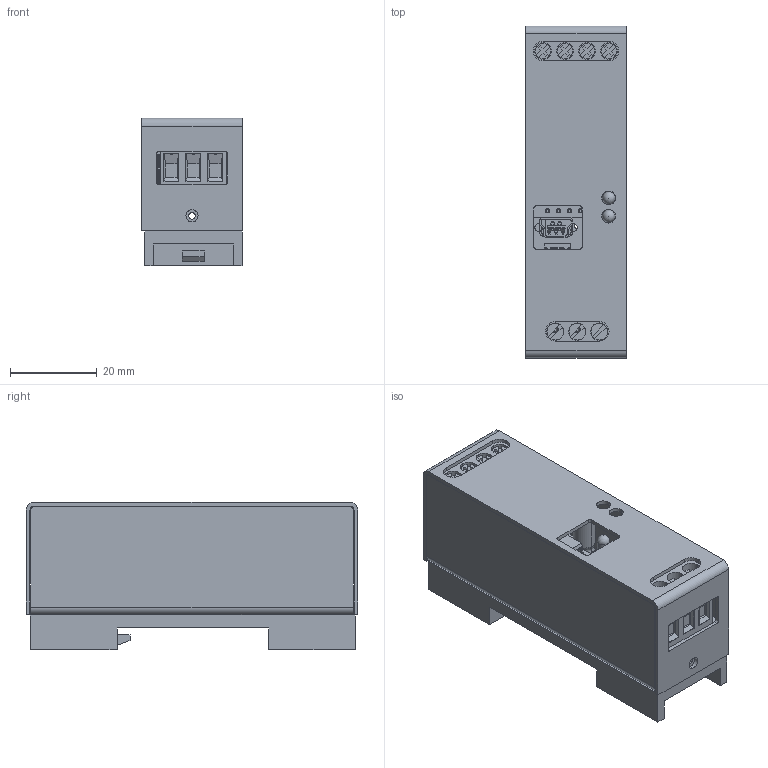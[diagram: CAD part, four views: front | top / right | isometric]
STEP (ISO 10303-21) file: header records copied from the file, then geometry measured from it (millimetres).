
FILE_DESCRIPTION (( 'STEP AP214' ), '1' );
FILE_NAME ('3d_model_tf120.STEP', '2022-11-25T14:15:17', ( '' ), ( '' ), 'SwSTEP 2.0', 'SolidWorks 2015', '' );
FILE_SCHEMA (( 'AUTOMOTIVE_DESIGN' ));
Length unit declared in the file: millimetre
Products named in the file (4): 3d_model_tf120; SUPORTE TRILHO; TF_1XX_REVA; IM001
Assembly tree (3 placements, depth 2):
  3d_model_tf120
    IM001
    TF_1XX_REVA
    SUPORTE TRILHO
Bounding box: 23.1 x 76.6 x 34 mm (x, y, z)
Volume: 13265.1 mm3; surface area: 31411.9 mm2
Topology: 7 solids, 435 shells, 2167 faces, 9189 edges, 7374 vertices
Faces by surface type: plane 1616, cylinder 395, bspline 140, sphere 9, torus 5, cone 2
Entity records: 131420 total; most frequent: CARTESIAN_POINT 39900, ORIENTED_EDGE 12707, DIRECTION 12367, EDGE_CURVE 9171, VERTEX_POINT 7369, LINE 6001, VECTOR 6001, AXIS2_PLACEMENT_3D 3183
